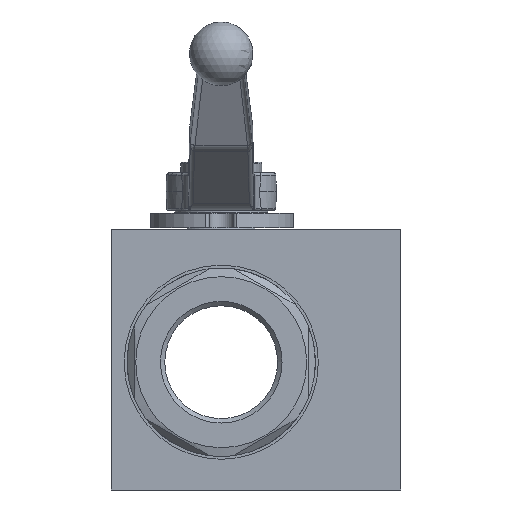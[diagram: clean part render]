
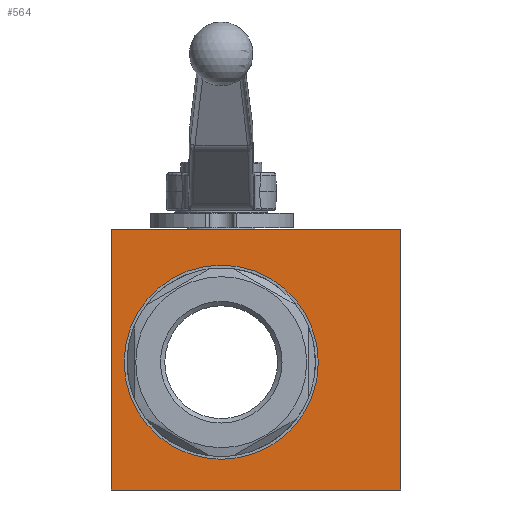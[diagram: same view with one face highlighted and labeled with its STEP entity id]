
A CAD part, front view. The second image highlights one B-rep face of the part: STEP entity #564.
In plain terms, the highlighted planar face has unit normal (0, -1, 0).
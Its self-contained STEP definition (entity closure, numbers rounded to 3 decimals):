
#564 = ADVANCED_FACE( '', ( #1256, #1257 ), #1258, .F. );
#1256 = FACE_OUTER_BOUND( '', #2376, .T. );
#1257 = FACE_BOUND( '', #2377, .T. );
#1258 = PLANE( '', #2378 );
#2376 = EDGE_LOOP( '', ( #4082, #4083, #4084, #4085 ) );
#2377 = EDGE_LOOP( '', ( #4086 ) );
#2378 = AXIS2_PLACEMENT_3D( '', #4087, #4088, #4089 );
#4082 = ORIENTED_EDGE( '', *, *, #6376, .T. );
#4083 = ORIENTED_EDGE( '', *, *, #6271, .T. );
#4084 = ORIENTED_EDGE( '', *, *, #6377, .F. );
#4085 = ORIENTED_EDGE( '', *, *, #6378, .F. );
#4086 = ORIENTED_EDGE( '', *, *, #6379, .T. );
#4087 = CARTESIAN_POINT( '', ( -38., -42., 45.9 ) );
#4088 = DIRECTION( '', ( 0., 1., 0. ) );
#4089 = DIRECTION( '', ( -1., 0., 0. ) );
#6271 = EDGE_CURVE( '', #7299, #7303, #7305, .T. );
#6376 = EDGE_CURVE( '', #7481, #7299, #7482, .T. );
#6377 = EDGE_CURVE( '', #7483, #7303, #7484, .T. );
#6378 = EDGE_CURVE( '', #7481, #7483, #7485, .T. );
#6379 = EDGE_CURVE( '', #7486, #7486, #7487, .T. );
#7299 = VERTEX_POINT( '', #9076 );
#7303 = VERTEX_POINT( '', #9082 );
#7305 = LINE( '', #9085, #9086 );
#7481 = VERTEX_POINT( '', #9441 );
#7482 = LINE( '', #9442, #9443 );
#7483 = VERTEX_POINT( '', #9444 );
#7484 = LINE( '', #9445, #9446 );
#7485 = LINE( '', #9447, #9448 );
#7486 = VERTEX_POINT( '', #9449 );
#7487 = CIRCLE( '', #9450, 33.5 );
#9076 = CARTESIAN_POINT( '', ( -38., -42., -44.1 ) );
#9082 = CARTESIAN_POINT( '', ( 62., -42., -44.1 ) );
#9085 = CARTESIAN_POINT( '', ( -38., -42., -44.1 ) );
#9086 = VECTOR( '', #11909, 1000. );
#9441 = CARTESIAN_POINT( '', ( -38., -42., 45.9 ) );
#9442 = CARTESIAN_POINT( '', ( -38., -42., 45.9 ) );
#9443 = VECTOR( '', #12048, 1000. );
#9444 = CARTESIAN_POINT( '', ( 62., -42., 45.9 ) );
#9445 = CARTESIAN_POINT( '', ( 62., -42., 45.9 ) );
#9446 = VECTOR( '', #12049, 1000. );
#9447 = CARTESIAN_POINT( '', ( -38., -42., 45.9 ) );
#9448 = VECTOR( '', #12050, 1000. );
#9449 = CARTESIAN_POINT( '', ( 33.5, -42., 0. ) );
#9450 = AXIS2_PLACEMENT_3D( '', #12051, #12052, #12053 );
#11909 = DIRECTION( '', ( 1., 0., 0. ) );
#12048 = DIRECTION( '', ( 0., 0., -1. ) );
#12049 = DIRECTION( '', ( 0., 0., -1. ) );
#12050 = DIRECTION( '', ( 1., 0., 0. ) );
#12051 = CARTESIAN_POINT( '', ( 0., -42., 0. ) );
#12052 = DIRECTION( '', ( 0., 1., 0. ) );
#12053 = DIRECTION( '', ( 1., 0., 0. ) );
